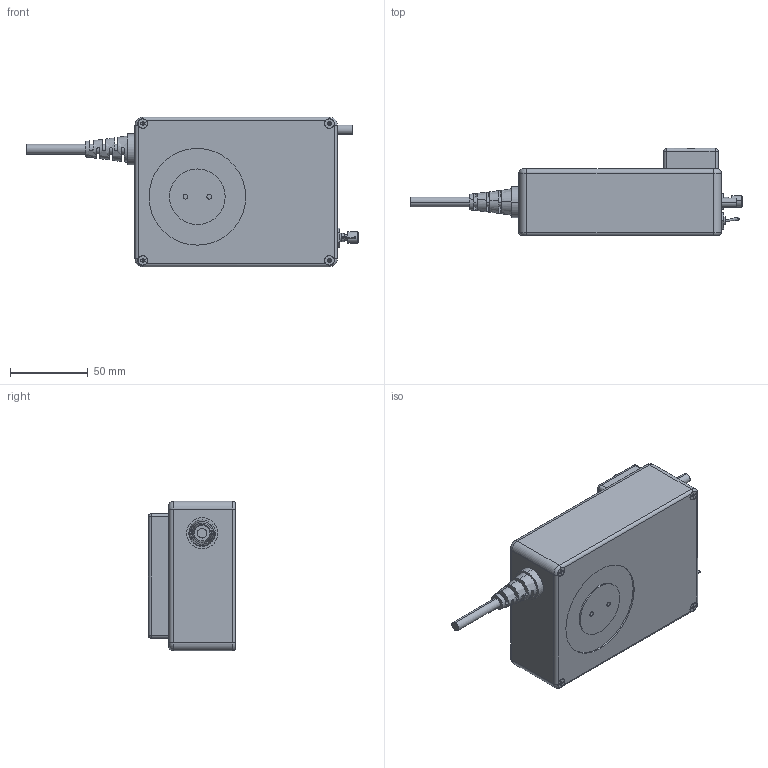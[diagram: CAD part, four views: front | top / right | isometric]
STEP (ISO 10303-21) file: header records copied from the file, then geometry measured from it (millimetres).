
FILE_DESCRIPTION (( 'STEP AP214' ), '1' );
FILE_NAME ('DMR-100B_Assem0.STEP', '2024-07-19T02:33:02', ( '' ), ( '' ), 'SwSTEP 2.0', 'SolidWorks 2023', '' );
FILE_SCHEMA (( 'AUTOMOTIVE_DESIGN' ));
Length unit declared in the file: millimetre
Products named in the file (7): トルグスイッチ_Part5; プッシュボタン_Part4; DMR100B_Part1; DMR-100B_Assem0; DMR100B_Part2; Flat Head SCREW M3 X6 MM; ナット_Part3
Assembly tree (16 placements, depth 2):
  DMR-100B_Assem0
    DMR100B_Part2
    DMR100B_Part1
    ナット_Part3  x2
    トルグスイッチ_Part5
    プッシュボタン_Part4
    Flat Head SCREW M3 X6 MM  x10
Bounding box: 213.33 x 56 x 96 mm (x, y, z)
Volume: 573916.6 mm3; surface area: 78120.9 mm2
Topology: 16 solids, 16 shells, 887 faces, 2396 edges, 1608 vertices
Faces by surface type: plane 377, cylinder 368, cone 76, bspline 52, torus 10, sphere 4
Entity records: 22723 total; most frequent: CARTESIAN_POINT 4870, DIRECTION 3823, ORIENTED_EDGE 3638, EDGE_CURVE 1819, AXIS2_PLACEMENT_3D 1410, VERTEX_POINT 1202, VECTOR 1003, LINE 1003
